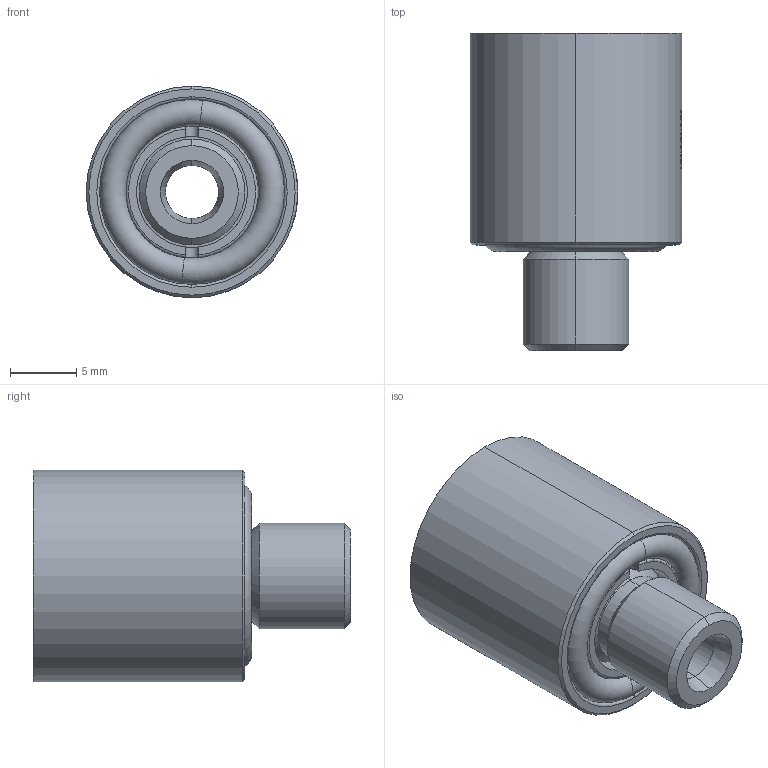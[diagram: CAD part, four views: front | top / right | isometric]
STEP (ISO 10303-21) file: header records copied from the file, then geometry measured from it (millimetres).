
FILE_DESCRIPTION (( 'STEP AP214' ), '1' );
FILE_NAME ('SA160416.STEP', '2018-04-09T10:06:26', ( '' ), ( '' ), 'SwSTEP 2.0', 'SolidWorks 2017', '' );
FILE_SCHEMA (( 'AUTOMOTIVE_DESIGN' ));
Length unit declared in the file: millimetre
Products named in the file (5): 9SA160416-I; SA160416; 9SA160016-T; 9SA160016-C_acabado; JT10x2
Assembly tree (4 placements, depth 2):
  SA160416
    9SA160016-C_acabado
    9SA160416-I
    9SA160016-T
    JT10x2
Bounding box: 16 x 24 x 16 mm (x, y, z)
Volume: 3149.7 mm3; surface area: 3090.3 mm2
Topology: 4 solids, 4 shells, 435 faces, 1151 edges, 754 vertices
Faces by surface type: bspline 228, plane 111, cylinder 58, cone 24, torus 14
Entity records: 25541 total; most frequent: CARTESIAN_POINT 12872, ORIENTED_EDGE 2302, EDGE_CURVE 1151, DIRECTION 941, B_SPLINE_CURVE_WITH_KNOTS 774, VERTEX_POINT 754, EDGE_LOOP 473, FACE_OUTER_BOUND 435
